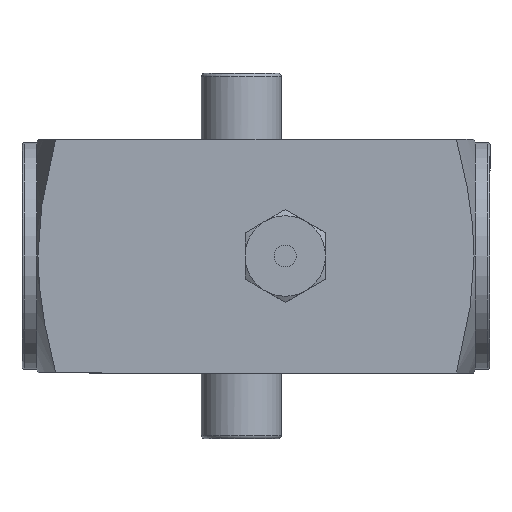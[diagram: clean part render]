
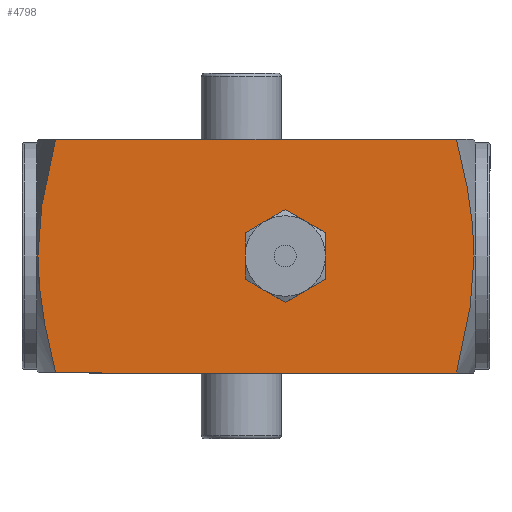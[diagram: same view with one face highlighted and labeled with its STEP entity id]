
A CAD part, front view. The second image highlights one B-rep face of the part: STEP entity #4798.
In plain terms, the highlighted planar face has unit normal (0, -1, 0).
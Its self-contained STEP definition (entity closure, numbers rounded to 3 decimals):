
#202=(
BOUNDED_CURVE()
B_SPLINE_CURVE(2,(#8443,#8444,#8445),.UNSPECIFIED.,.F.,.F.)
B_SPLINE_CURVE_WITH_KNOTS((3,3),(-27.845,-19.173),
 .UNSPECIFIED.)
CURVE()
GEOMETRIC_REPRESENTATION_ITEM()
RATIONAL_B_SPLINE_CURVE((5.141,6.206,6.206))
REPRESENTATION_ITEM('')
);
#205=(
BOUNDED_CURVE()
B_SPLINE_CURVE(2,(#8454,#8455,#8456,#8457),.UNSPECIFIED.,.F.,.F.)
B_SPLINE_CURVE_WITH_KNOTS((3,1,3),(-19.173,-15.987,
-10.502),.UNSPECIFIED.)
CURVE()
GEOMETRIC_REPRESENTATION_ITEM()
RATIONAL_B_SPLINE_CURVE((6.206,6.206,5.815,
5.141))
REPRESENTATION_ITEM('')
);
#206=(
BOUNDED_CURVE()
B_SPLINE_CURVE(2,(#8462,#8463,#8464),.UNSPECIFIED.,.F.,.F.)
B_SPLINE_CURVE_WITH_KNOTS((3,3),(-28.131,-19.376),
 .UNSPECIFIED.)
CURVE()
GEOMETRIC_REPRESENTATION_ITEM()
RATIONAL_B_SPLINE_CURVE((5.19,6.265,6.265))
REPRESENTATION_ITEM('')
);
#209=(
BOUNDED_CURVE()
B_SPLINE_CURVE(2,(#8472,#8473,#8474,#8475),.UNSPECIFIED.,.F.,.F.)
B_SPLINE_CURVE_WITH_KNOTS((3,1,3),(-19.376,-16.264,-10.621),
 .UNSPECIFIED.)
CURVE()
GEOMETRIC_REPRESENTATION_ITEM()
RATIONAL_B_SPLINE_CURVE((6.265,6.265,5.883,
5.19))
REPRESENTATION_ITEM('')
);
#265=FACE_BOUND('',#1776,.T.);
#412=PLANE('',#5135);
#773=LINE('',#8324,#1171);
#810=LINE('',#8480,#1208);
#1171=VECTOR('',#6014,10.);
#1208=VECTOR('',#6165,10.);
#1493=FACE_OUTER_BOUND('',#1775,.T.);
#1775=EDGE_LOOP('',(#4277,#4278,#4279,#4280,#4281,#4282));
#1776=EDGE_LOOP('',(#4283));
#1878=CIRCLE('',#5104,4.);
#2281=VERTEX_POINT('',#8319);
#2282=VERTEX_POINT('',#8323);
#2298=VERTEX_POINT('',#8383);
#2310=VERTEX_POINT('',#8442);
#2312=VERTEX_POINT('',#8450);
#2313=VERTEX_POINT('',#8460);
#2314=VERTEX_POINT('',#8461);
#2907=EDGE_CURVE('',#2281,#2282,#773,.T.);
#2934=EDGE_CURVE('',#2298,#2298,#1878,.T.);
#2960=EDGE_CURVE('',#2281,#2310,#202,.T.);
#2963=EDGE_CURVE('',#2310,#2312,#205,.T.);
#2965=EDGE_CURVE('',#2313,#2314,#206,.T.);
#2968=EDGE_CURVE('',#2314,#2282,#209,.T.);
#2971=EDGE_CURVE('',#2312,#2313,#810,.T.);
#4277=ORIENTED_EDGE('',*,*,#2960,.T.);
#4278=ORIENTED_EDGE('',*,*,#2963,.T.);
#4279=ORIENTED_EDGE('',*,*,#2971,.T.);
#4280=ORIENTED_EDGE('',*,*,#2965,.T.);
#4281=ORIENTED_EDGE('',*,*,#2968,.T.);
#4282=ORIENTED_EDGE('',*,*,#2907,.F.);
#4283=ORIENTED_EDGE('',*,*,#2934,.T.);
#4798=ADVANCED_FACE('',(#1493,#265),#412,.T.);
#5104=AXIS2_PLACEMENT_3D('',#8385,#6083,#6084);
#5135=AXIS2_PLACEMENT_3D('',#8482,#6168,#6169);
#6014=DIRECTION('',(1.,0.,0.));
#6083=DIRECTION('center_axis',(0.,1.,0.));
#6084=DIRECTION('ref_axis',(0.,0.,
-1.));
#6165=DIRECTION('',(1.,0.,0.));
#6168=DIRECTION('center_axis',(0.,-1.,0.));
#6169=DIRECTION('ref_axis',(1.,0.,0.));
#8319=CARTESIAN_POINT('',(-36.379,-36.549,16.));
#8323=CARTESIAN_POINT('',(18.433,-36.549,16.));
#8324=CARTESIAN_POINT('',(-10.973,-36.549,16.));
#8383=CARTESIAN_POINT('',(-4.973,-36.549,4.));
#8385=CARTESIAN_POINT('Origin',(-4.973,-36.549,0.));
#8442=CARTESIAN_POINT('',(-38.791,-36.549,0.));
#8443=CARTESIAN_POINT('Ctrl Pts',(-36.379,-36.549,16.));
#8444=CARTESIAN_POINT('Ctrl Pts',(-38.791,-36.549,6.627));
#8445=CARTESIAN_POINT('Ctrl Pts',(-38.791,-36.549,0.));
#8450=CARTESIAN_POINT('',(-36.379,-36.549,-16.));
#8454=CARTESIAN_POINT('Ctrl Pts',(-38.791,-36.549,0.));
#8455=CARTESIAN_POINT('Ctrl Pts',(-38.791,-36.549,-2.435));
#8456=CARTESIAN_POINT('Ctrl Pts',(-38.007,-36.549,-9.673));
#8457=CARTESIAN_POINT('Ctrl Pts',(-36.379,-36.549,-16.));
#8460=CARTESIAN_POINT('',(18.433,-36.549,-16.));
#8461=CARTESIAN_POINT('',(20.845,-36.549,0.));
#8462=CARTESIAN_POINT('Ctrl Pts',(18.433,-36.549,-16.));
#8463=CARTESIAN_POINT('Ctrl Pts',(20.845,-36.549,-6.627));
#8464=CARTESIAN_POINT('Ctrl Pts',(20.845,-36.549,0.));
#8472=CARTESIAN_POINT('Ctrl Pts',(20.845,-36.549,0.));
#8473=CARTESIAN_POINT('Ctrl Pts',(20.845,-36.549,2.356));
#8474=CARTESIAN_POINT('Ctrl Pts',(20.089,-36.549,9.567));
#8475=CARTESIAN_POINT('Ctrl Pts',(18.433,-36.549,16.));
#8480=CARTESIAN_POINT('',(-10.973,-36.549,-16.));
#8482=CARTESIAN_POINT('Origin',(-10.973,-36.549,16.));
